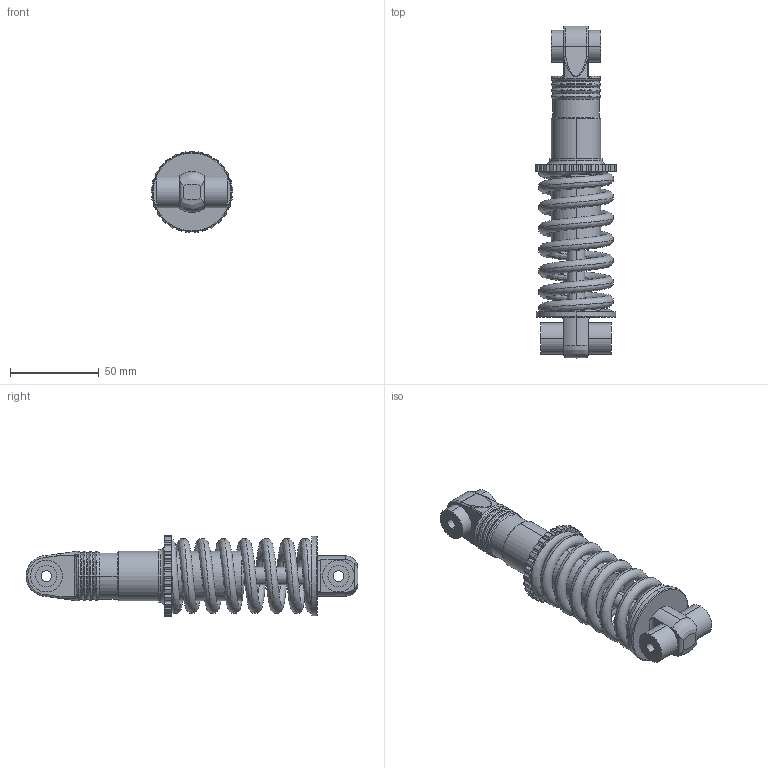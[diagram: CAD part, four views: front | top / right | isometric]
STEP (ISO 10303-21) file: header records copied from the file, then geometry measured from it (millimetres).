
FILE_DESCRIPTION (( 'STEP AP214' ), '1' );
FILE_NAME ('DNM DV22 165x35.STEP', '2011-11-30T16:29:06', ( 'stein' ), ( '' ), 'SwSTEP 2.0', 'SolidWorks 2010', '' );
FILE_SCHEMA (( 'AUTOMOTIVE_DESIGN' ));
Length unit declared in the file: millimetre
Products named in the file (9): DNM 165x38 body; DNM piston; DNM pin 12x6x28; DNM pin 12x6x40; DNM pin 12x6x40 spacer; DNM pin 12x6x28 spacer; 450lbs helix spring; DNM spring ring; DNM DV22 165x35
Assembly tree (10 placements, depth 2):
  DNM DV22 165x35
    DNM pin 12x6x40 spacer  x2
    DNM pin 12x6x28 spacer  x2
    DNM 165x38 body
    DNM piston
    450lbs helix spring
    DNM spring ring
    DNM pin 12x6x28
    DNM pin 12x6x40
Bounding box: 46 x 187.5 x 45.97 mm (x, y, z)
Volume: 118689.2 mm3; surface area: 50888.9 mm2
Topology: 10 solids, 10 shells, 258 faces, 643 edges, 412 vertices
Faces by surface type: cylinder 160, torus 48, plane 36, bspline 12, sphere 2
Entity records: 18715 total; most frequent: CARTESIAN_POINT 12141, DIRECTION 1459, ORIENTED_EDGE 1238, AXIS2_PLACEMENT_3D 644, EDGE_CURVE 619, CIRCLE 397, VERTEX_POINT 396, EDGE_LOOP 267
